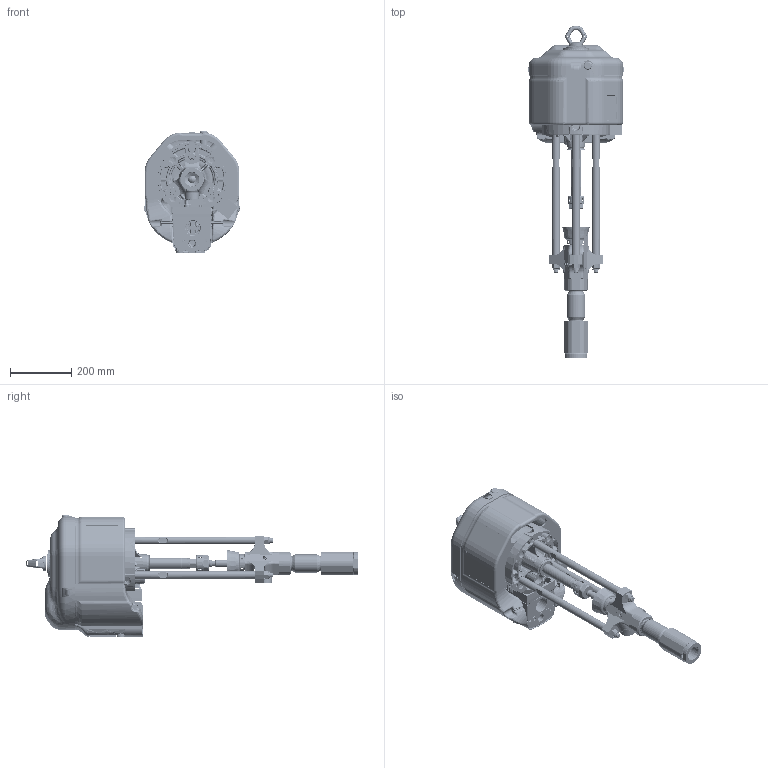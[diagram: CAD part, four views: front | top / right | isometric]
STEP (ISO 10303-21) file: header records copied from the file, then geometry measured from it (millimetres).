
FILE_DESCRIPTION((''),'2;1');
FILE_NAME('P31CSS-EN-A_PRT','2020-05-28T13:57:43',('qusrh3'),(''),'CREO PARAMETRIC BY PTC INC, 2019030','CREO PARAMETRIC BY PTC INC, 2019030','');
FILE_SCHEMA(('CONFIG_CONTROL_DESIGN'));
Products named in the file (1): P31CSS-EN-A_PRT
Bounding box: 314.71 x 1079.85 x 395.13 mm (x, y, z)
Surface area: 2791765.5 mm2 (no closed solid volume)
Topology: 0 solids, 609 shells, 5416 faces, 23611 edges, 18004 vertices
Faces by surface type: plane 1678, cylinder 1452, bspline 891, torus 728, cone 629, sphere 28, extrusion 10
Entity records: 317062 total; most frequent: CARTESIAN_POINT 149704, ORIENTED_EDGE 32413, DIRECTION 29384, EDGE_CURVE 23599, VERTEX_POINT 18004, AXIS2_PLACEMENT_3D 11065, B_SPLINE_CURVE_WITH_KNOTS 9815, VECTOR 7254
